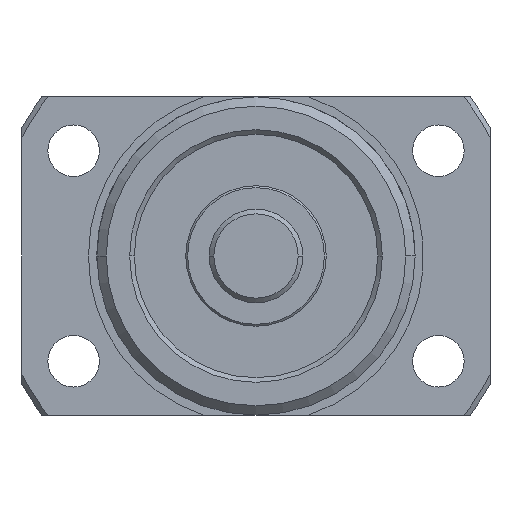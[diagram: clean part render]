
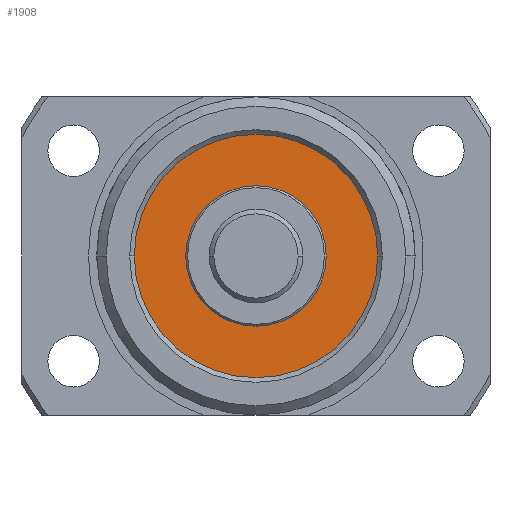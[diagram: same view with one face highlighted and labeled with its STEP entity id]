
A CAD part, left-side view. The second image highlights one B-rep face of the part: STEP entity #1908.
In plain terms, the highlighted planar face has unit normal (-1, 0, 0).
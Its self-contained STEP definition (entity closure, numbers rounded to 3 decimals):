
#235 = EDGE_LOOP ( 'NONE', ( #2193, #2194 ) ) ;
#630 = CARTESIAN_POINT ( 'NONE',  ( -40.5, 0., 0. ) ) ;
#631 = DIRECTION ( 'NONE',  ( -1., 0., 0. ) ) ;
#632 = DIRECTION ( 'NONE',  ( 0., -1., 0. ) ) ;
#728 = CARTESIAN_POINT ( 'NONE',  ( -40.5, 0., -7.5 ) ) ;
#733 = CARTESIAN_POINT ( 'NONE',  ( -40.5, 0., 7.5 ) ) ;
#837 = VERTEX_POINT ( 'NONE', #733 ) ;
#893 = EDGE_CURVE ( 'NONE', #3175, #3163, #2801, .T. ) ;
#1119 = CIRCLE ( 'NONE', #4895, 13. ) ;
#1467 = EDGE_CURVE ( 'NONE', #3163, #3175, #1119, .T. ) ;
#1682 = FACE_BOUND ( 'NONE', #3301, .T. ) ;
#1689 = FACE_OUTER_BOUND ( 'NONE', #235, .T. ) ;
#1743 = CIRCLE ( 'NONE', #2951, 7.5 ) ;
#1908 = ADVANCED_FACE ( 'NONE', ( #1682, #1689 ), #4183, .T. ) ;
#2021 = CIRCLE ( 'NONE', #3577, 7.5 ) ;
#2191 = ORIENTED_EDGE ( 'NONE', *, *, #2493, .F. ) ;
#2192 = ORIENTED_EDGE ( 'NONE', *, *, #4116, .F. ) ;
#2193 = ORIENTED_EDGE ( 'NONE', *, *, #1467, .T. ) ;
#2194 = ORIENTED_EDGE ( 'NONE', *, *, #893, .T. ) ;
#2493 = EDGE_CURVE ( 'NONE', #5528, #837, #1743, .T. ) ;
#2578 = CARTESIAN_POINT ( 'NONE',  ( -40.5, 0., 0. ) ) ;
#2579 = DIRECTION ( 'NONE',  ( -1., 0., 0. ) ) ;
#2580 = DIRECTION ( 'NONE',  ( 0., -1., 0. ) ) ;
#2711 = CARTESIAN_POINT ( 'NONE',  ( -40.5, 0., 0. ) ) ;
#2715 = DIRECTION ( 'NONE',  ( -1., 0., 0. ) ) ;
#2723 = DIRECTION ( 'NONE',  ( 0., -1., 0. ) ) ;
#2801 = CIRCLE ( 'NONE', #4834, 13. ) ;
#2921 = AXIS2_PLACEMENT_3D ( 'NONE', #4181, #4179, #4185 ) ;
#2951 = AXIS2_PLACEMENT_3D ( 'NONE', #2578, #2579, #2580 ) ;
#3163 = VERTEX_POINT ( 'NONE', #4532 ) ;
#3175 = VERTEX_POINT ( 'NONE', #4540 ) ;
#3301 = EDGE_LOOP ( 'NONE', ( #2191, #2192 ) ) ;
#3577 = AXIS2_PLACEMENT_3D ( 'NONE', #630, #631, #632 ) ;
#3896 = CARTESIAN_POINT ( 'NONE',  ( -40.5, 0., 0. ) ) ;
#3897 = DIRECTION ( 'NONE',  ( -1., 0., 0. ) ) ;
#3898 = DIRECTION ( 'NONE',  ( 0., -1., 0. ) ) ;
#4116 = EDGE_CURVE ( 'NONE', #837, #5528, #2021, .T. ) ;
#4179 = DIRECTION ( 'NONE',  ( -1., 0., 0. ) ) ;
#4181 = CARTESIAN_POINT ( 'NONE',  ( -40.5, 0., 0. ) ) ;
#4183 = PLANE ( 'NONE',  #2921 ) ;
#4185 = DIRECTION ( 'NONE',  ( 0., -1., 0. ) ) ;
#4532 = CARTESIAN_POINT ( 'NONE',  ( -40.5, -13., 0. ) ) ;
#4540 = CARTESIAN_POINT ( 'NONE',  ( -40.5, 13., 0. ) ) ;
#4834 = AXIS2_PLACEMENT_3D ( 'NONE', #2711, #2715, #2723 ) ;
#4895 = AXIS2_PLACEMENT_3D ( 'NONE', #3896, #3897, #3898 ) ;
#5528 = VERTEX_POINT ( 'NONE', #728 ) ;
